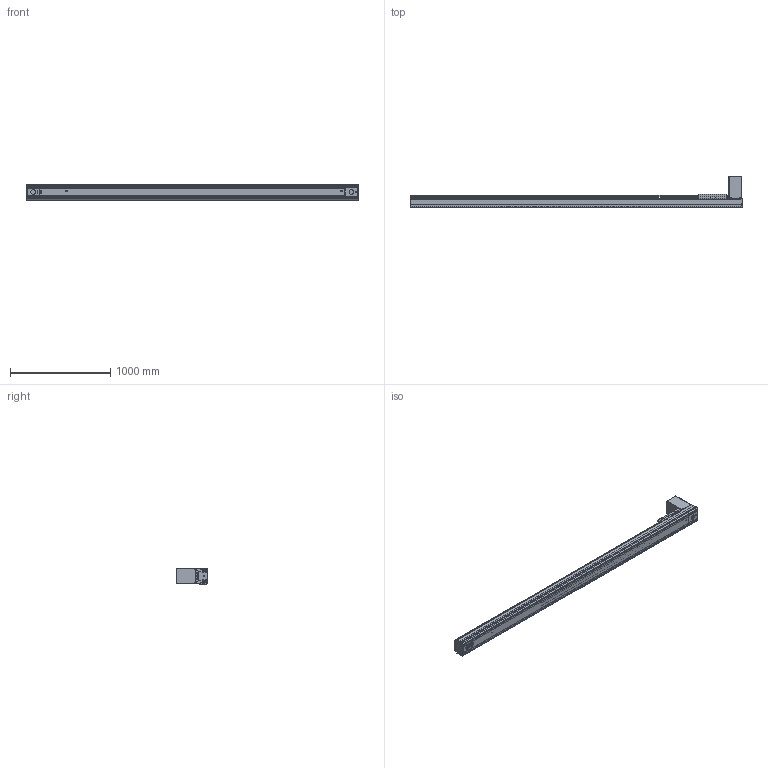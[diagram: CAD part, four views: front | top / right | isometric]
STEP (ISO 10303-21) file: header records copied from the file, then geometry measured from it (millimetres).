
FILE_DESCRIPTION((''),'2;1');
FILE_NAME('BE50G-BT-L19N-T5_IGS_PRT','2017-06-18T',(' '),(''),'PRO/ENGINEER BY PARAMETRIC TECHNOLOGY CORPORATION, 2015030','PRO/ENGINEER BY PARAMETRIC TECHNOLOGY CORPORATION, 2015030','');
FILE_SCHEMA(('CONFIG_CONTROL_DESIGN'));
Products named in the file (1): BE50G-BT-L19N-T5_IGS_PRT
Bounding box: 3320 x 309 x 160 mm (x, y, z)
Volume: 12446190.5 mm3; surface area: 5662462.5 mm2
Topology: 9 solids, 306 shells, 2215 faces, 6517 edges, 4504 vertices
Faces by surface type: cylinder 1169, plane 819, cone 184, sphere 23, torus 20
Entity records: 78376 total; most frequent: CARTESIAN_POINT 18901, DIRECTION 12251, ORIENTED_EDGE 11910, EDGE_CURVE 6443, AXIS2_PLACEMENT_3D 4657, VERTEX_POINT 4504, VECTOR 2937, LINE 2937
